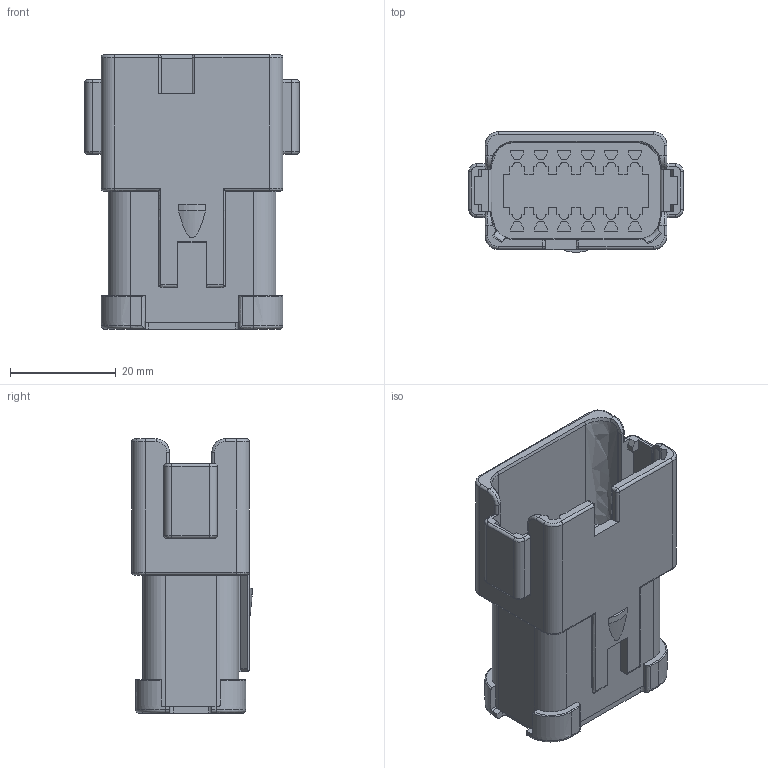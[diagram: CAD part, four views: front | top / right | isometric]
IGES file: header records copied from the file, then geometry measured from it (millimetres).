
Start section:  PTC IGES file: c-dt04-12pa-ce07-99-3d.igs
Global section: file name: c-dt04-12pa-ce07-99-3d.igs; native system: Pro/ENGINEER by Parametric Technology Corporation; preprocessor: 2011490; author: workeradm; organization: Unknown; units: millimetre
Bounding box: 40.56 x 22.76 x 51.89 mm (x, y, z)
Surface area: 10575.7 mm2 (no closed solid volume)
Topology: 0 solids, 0 shells, 694 faces, 3568 edges, 3568 vertices
Faces by surface type: bspline 405, revolution 289
